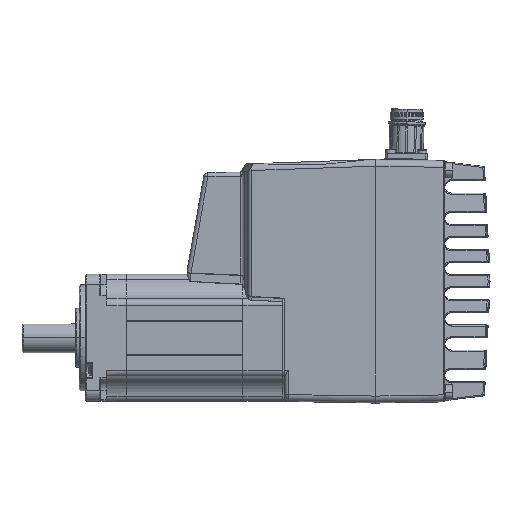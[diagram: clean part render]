
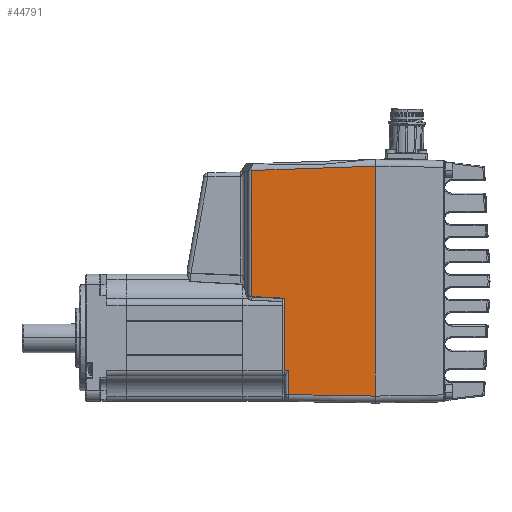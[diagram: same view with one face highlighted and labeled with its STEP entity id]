
A CAD part, top view. The second image highlights one B-rep face of the part: STEP entity #44791.
In plain terms, the highlighted planar face has unit normal (-0.035, 0, 0.999) as drawn and (0.999, 0, 0.035) by its records, which use the part's own axes.
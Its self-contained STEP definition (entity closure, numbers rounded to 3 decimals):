
#2328=DIRECTION('',(0.036,0.,-0.999));
#2329=VECTOR('',#2328,1.885);
#2330=CARTESIAN_POINT('',(30.001,-42.249,42.904));
#2331=LINE('',#2330,#2329);
#2350=DIRECTION('',(-0.035,0.017,0.999));
#2351=VECTOR('',#2350,40.954);
#2352=CARTESIAN_POINT('',(31.497,-54.3,
0.097));
#2353=LINE('',#2352,#2351);
#2357=CARTESIAN_POINT('',(30.002,-8.093,42.903));
#2358=CARTESIAN_POINT('',(29.84,-7.815,47.536));
#2359=CARTESIAN_POINT('',(29.658,-7.545,52.737));
#2360=CARTESIAN_POINT('',(29.458,-7.285,58.468));
#2365=DIRECTION('',(0.035,0.035,-0.999));
#2366=VECTOR('',#2365,58.442);
#2367=CARTESIAN_POINT('',(29.458,52.26,58.468));
#2368=LINE('',#2367,#2366);
#3906=DIRECTION('',(0.,-1.,0.));
#3907=VECTOR('',#3906,11.336);
#3908=CARTESIAN_POINT('',(30.068,-42.249,41.02));
#3909=LINE('',#3908,#3907);
#4717=CARTESIAN_POINT('',(29.458,-7.285,58.468));
#4786=DIRECTION('',(0.,-1.,0.));
#4787=VECTOR('',#4786,34.156);
#4788=CARTESIAN_POINT('',(30.002,-8.093,42.903));
#4789=LINE('',#4788,#4787);
#4824=DIRECTION('',(0.,-1.,0.));
#4825=VECTOR('',#4824,59.545);
#4826=CARTESIAN_POINT('',(29.458,52.26,58.468));
#4827=LINE('',#4826,#4825);
#5307=DIRECTION('',(0.,1.,0.));
#5308=VECTOR('',#5307,108.598);
#5309=CARTESIAN_POINT('',(31.497,-54.3,
0.097));
#5310=LINE('',#5309,#5308);
#37482=VERTEX_POINT('',#4717);
#37534=CARTESIAN_POINT('',(30.001,-42.249,
42.904));
#37536=VERTEX_POINT('',#37534);
#37540=CARTESIAN_POINT('',(30.068,-42.249,
41.02));
#37541=VERTEX_POINT('',#37540);
#37542=CARTESIAN_POINT('',(31.497,-54.3,
0.097));
#37543=CARTESIAN_POINT('',(30.068,-53.585,
41.02));
#37544=VERTEX_POINT('',#37542);
#37545=VERTEX_POINT('',#37543);
#37546=VERTEX_POINT('',#2357);
#37547=CARTESIAN_POINT('',(29.458,52.26,58.468));
#37548=CARTESIAN_POINT('',(31.496,54.299,
0.097));
#37549=VERTEX_POINT('',#37547);
#37550=VERTEX_POINT('',#37548);
#44769=CARTESIAN_POINT('',(30.477,-0.001,
29.282));
#44770=DIRECTION('',(0.999,0.,0.035));
#44771=DIRECTION('',(0.,-1.,0.));
#44772=AXIS2_PLACEMENT_3D('',#44769,#44770,#44771);
#44773=PLANE('',#44772);
#44775=ORIENTED_EDGE('',*,*,#44774,.T.);
#44777=ORIENTED_EDGE('',*,*,#44776,.F.);
#44778=ORIENTED_EDGE('',*,*,#44761,.F.);
#44780=ORIENTED_EDGE('',*,*,#44779,.F.);
#44782=ORIENTED_EDGE('',*,*,#44781,.T.);
#44784=ORIENTED_EDGE('',*,*,#44783,.F.);
#44786=ORIENTED_EDGE('',*,*,#44785,.T.);
#44788=ORIENTED_EDGE('',*,*,#44787,.F.);
#44789=EDGE_LOOP('',(#44775,#44777,#44778,#44780,#44782,#44784,#44786,#44788));
#44790=FACE_OUTER_BOUND('',#44789,.F.);
#2361=B_SPLINE_CURVE_WITH_KNOTS('',3,(#2357,#2358,#2359,#2360),.UNSPECIFIED.,
.F.,.F.,(4,4),(0.,1.),.UNSPECIFIED.);
#44761=EDGE_CURVE('',#37536,#37541,#2331,.T.);
#44774=EDGE_CURVE('',#37544,#37545,#2353,.T.);
#44776=EDGE_CURVE('',#37541,#37545,#3909,.T.);
#44779=EDGE_CURVE('',#37546,#37536,#4789,.T.);
#44781=EDGE_CURVE('',#37546,#37482,#2361,.T.);
#44783=EDGE_CURVE('',#37549,#37482,#4827,.T.);
#44785=EDGE_CURVE('',#37549,#37550,#2368,.T.);
#44787=EDGE_CURVE('',#37544,#37550,#5310,.T.);
#44791=ADVANCED_FACE('',(#44790),#44773,.T.);
